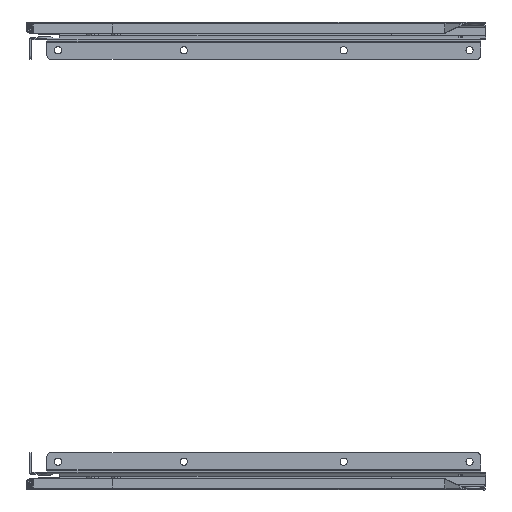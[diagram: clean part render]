
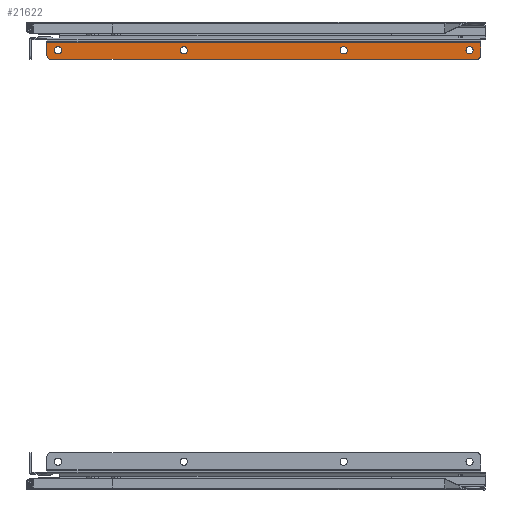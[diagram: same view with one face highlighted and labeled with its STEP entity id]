
A CAD part, front view. The second image highlights one B-rep face of the part: STEP entity #21622.
In plain terms, the highlighted planar face has unit normal (0, -1, 0).
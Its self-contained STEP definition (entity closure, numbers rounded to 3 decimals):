
#253 = CARTESIAN_POINT ( 'NONE',  ( 330.8, -0.7, -13. ) ) ;
#295 = VECTOR ( 'NONE', #21865, 1000. ) ;
#667 = DIRECTION ( 'NONE',  ( 0., 1., 0. ) ) ;
#857 = EDGE_CURVE ( 'NONE', #15653, #21647, #22675, .T. ) ;
#941 = VERTEX_POINT ( 'NONE', #13379 ) ;
#1308 = DIRECTION ( 'NONE',  ( 0., 0., 1. ) ) ;
#1405 = VERTEX_POINT ( 'NONE', #13095 ) ;
#2054 = EDGE_LOOP ( 'NONE', ( #2337, #7007 ) ) ;
#2213 = DIRECTION ( 'NONE',  ( 0., 0., 1. ) ) ;
#2320 = FACE_BOUND ( 'NONE', #9099, .T. ) ;
#2337 = ORIENTED_EDGE ( 'NONE', *, *, #5173, .T. ) ;
#2517 = VECTOR ( 'NONE', #23081, 1000. ) ;
#2651 = AXIS2_PLACEMENT_3D ( 'NONE', #18080, #667, #13897 ) ;
#2732 = EDGE_CURVE ( 'NONE', #7277, #13407, #20241, .T. ) ;
#3313 = CIRCLE ( 'NONE', #7383, 2.75 ) ;
#3319 = CARTESIAN_POINT ( 'NONE',  ( 322.4, -0.7, -6.35 ) ) ;
#3486 = DIRECTION ( 'NONE',  ( 0., 1., 0. ) ) ;
#3769 = CARTESIAN_POINT ( 'NONE',  ( 330.8, -0.7, -3.324 ) ) ;
#3899 = DIRECTION ( 'NONE',  ( 0., 1., 0. ) ) ;
#4271 = LINE ( 'NONE', #12007, #2517 ) ;
#4347 = CARTESIAN_POINT ( 'NONE',  ( 330.8, -0.7, -3.324 ) ) ;
#4365 = ORIENTED_EDGE ( 'NONE', *, *, #13634, .T. ) ;
#4647 = AXIS2_PLACEMENT_3D ( 'NONE', #5024, #12766, #18237 ) ;
#4714 = ORIENTED_EDGE ( 'NONE', *, *, #2732, .T. ) ;
#5024 = CARTESIAN_POINT ( 'NONE',  ( 327.8, -0.7, -13. ) ) ;
#5173 = EDGE_CURVE ( 'NONE', #11166, #8575, #3313, .T. ) ;
#5234 = DIRECTION ( 'NONE',  ( 0., 1., 0. ) ) ;
#5903 = CIRCLE ( 'NONE', #2651, 2.75 ) ;
#6156 = CARTESIAN_POINT ( 'NONE',  ( 3., -0.7, -13. ) ) ;
#6299 = AXIS2_PLACEMENT_3D ( 'NONE', #10331, #17828, #7946 ) ;
#6557 = CARTESIAN_POINT ( 'NONE',  ( 0., -0.7, -13. ) ) ;
#6943 = ORIENTED_EDGE ( 'NONE', *, *, #14647, .F. ) ;
#7007 = ORIENTED_EDGE ( 'NONE', *, *, #22946, .T. ) ;
#7277 = VERTEX_POINT ( 'NONE', #10904 ) ;
#7383 = AXIS2_PLACEMENT_3D ( 'NONE', #9347, #3899, #11635 ) ;
#7508 = AXIS2_PLACEMENT_3D ( 'NONE', #6156, #19640, #2213 ) ;
#7532 = EDGE_CURVE ( 'NONE', #941, #16978, #16716, .T. ) ;
#7620 = CARTESIAN_POINT ( 'NONE',  ( 104.4, -0.7, -11.85 ) ) ;
#7866 = ORIENTED_EDGE ( 'NONE', *, *, #13742, .F. ) ;
#7946 = DIRECTION ( 'NONE',  ( 0., 0., 1. ) ) ;
#8065 = DIRECTION ( 'NONE',  ( 0., 1., 0. ) ) ;
#8172 = FACE_OUTER_BOUND ( 'NONE', #20446, .T. ) ;
#8575 = VERTEX_POINT ( 'NONE', #7620 ) ;
#8670 = FACE_BOUND ( 'NONE', #14182, .T. ) ;
#8732 = CARTESIAN_POINT ( 'NONE',  ( 8.4, -0.7, -11.85 ) ) ;
#9099 = EDGE_LOOP ( 'NONE', ( #14351, #14025 ) ) ;
#9347 = CARTESIAN_POINT ( 'NONE',  ( 104.4, -0.7, -9.1 ) ) ;
#9567 = VERTEX_POINT ( 'NONE', #22963 ) ;
#9647 = VERTEX_POINT ( 'NONE', #6557 ) ;
#9801 = CIRCLE ( 'NONE', #19146, 2.75 ) ;
#10037 = EDGE_CURVE ( 'NONE', #16978, #941, #13596, .T. ) ;
#10061 = FACE_BOUND ( 'NONE', #22756, .T. ) ;
#10071 = EDGE_CURVE ( 'NONE', #9647, #9567, #19287, .T. ) ;
#10128 = EDGE_CURVE ( 'NONE', #21647, #15653, #5903, .T. ) ;
#10167 = LINE ( 'NONE', #14097, #295 ) ;
#10331 = CARTESIAN_POINT ( 'NONE',  ( 226.4, -0.7, -9.1 ) ) ;
#10633 = AXIS2_PLACEMENT_3D ( 'NONE', #16789, #5234, #1308 ) ;
#10690 = VERTEX_POINT ( 'NONE', #22989 ) ;
#10842 = DIRECTION ( 'NONE',  ( 0., 1., 0. ) ) ;
#10882 = AXIS2_PLACEMENT_3D ( 'NONE', #17054, #3486, #17313 ) ;
#10904 = CARTESIAN_POINT ( 'NONE',  ( 8.4, -0.7, -6.35 ) ) ;
#11166 = VERTEX_POINT ( 'NONE', #17830 ) ;
#11295 = AXIS2_PLACEMENT_3D ( 'NONE', #20760, #10842, #20394 ) ;
#11570 = CARTESIAN_POINT ( 'NONE',  ( 226.4, -0.7, -11.85 ) ) ;
#11572 = VECTOR ( 'NONE', #15992, 1000. ) ;
#11635 = DIRECTION ( 'NONE',  ( 0., 0., 1. ) ) ;
#11797 = CARTESIAN_POINT ( 'NONE',  ( 226.4, -0.7, -9.1 ) ) ;
#11807 = LINE ( 'NONE', #23645, #11572 ) ;
#12007 = CARTESIAN_POINT ( 'NONE',  ( 330.8, -0.7, -16. ) ) ;
#12085 = DIRECTION ( 'NONE',  ( 0., 1., 0. ) ) ;
#12267 = AXIS2_PLACEMENT_3D ( 'NONE', #11797, #17759, #21596 ) ;
#12766 = DIRECTION ( 'NONE',  ( 0., -1., 0. ) ) ;
#13095 = CARTESIAN_POINT ( 'NONE',  ( 330.8, -0.7, -3.324 ) ) ;
#13379 = CARTESIAN_POINT ( 'NONE',  ( 226.4, -0.7, -6.35 ) ) ;
#13407 = VERTEX_POINT ( 'NONE', #8732 ) ;
#13596 = CIRCLE ( 'NONE', #6299, 2.75 ) ;
#13634 = EDGE_CURVE ( 'NONE', #1405, #10690, #15818, .T. ) ;
#13742 = EDGE_CURVE ( 'NONE', #22842, #9567, #4271, .T. ) ;
#13770 = ORIENTED_EDGE ( 'NONE', *, *, #22673, .T. ) ;
#13897 = DIRECTION ( 'NONE',  ( 0., 0., 1. ) ) ;
#14025 = ORIENTED_EDGE ( 'NONE', *, *, #10037, .T. ) ;
#14097 = CARTESIAN_POINT ( 'NONE',  ( 330.8, -0.7, -3.324 ) ) ;
#14182 = EDGE_LOOP ( 'NONE', ( #4714, #13770 ) ) ;
#14351 = ORIENTED_EDGE ( 'NONE', *, *, #7532, .T. ) ;
#14647 = EDGE_CURVE ( 'NONE', #1405, #21825, #10167, .T. ) ;
#14941 = ORIENTED_EDGE ( 'NONE', *, *, #19117, .T. ) ;
#15653 = VERTEX_POINT ( 'NONE', #22126 ) ;
#15695 = DIRECTION ( 'NONE',  ( -1., 0., 0. ) ) ;
#15818 = LINE ( 'NONE', #3769, #23623 ) ;
#15904 = PLANE ( 'NONE',  #18659 ) ;
#15992 = DIRECTION ( 'NONE',  ( 0., 0., -1. ) ) ;
#16404 = FACE_BOUND ( 'NONE', #2054, .T. ) ;
#16533 = CARTESIAN_POINT ( 'NONE',  ( 327.8, -0.7, -16. ) ) ;
#16624 = ORIENTED_EDGE ( 'NONE', *, *, #22444, .T. ) ;
#16716 = CIRCLE ( 'NONE', #12267, 2.75 ) ;
#16764 = ORIENTED_EDGE ( 'NONE', *, *, #10128, .T. ) ;
#16789 = CARTESIAN_POINT ( 'NONE',  ( 104.4, -0.7, -9.1 ) ) ;
#16978 = VERTEX_POINT ( 'NONE', #11570 ) ;
#17054 = CARTESIAN_POINT ( 'NONE',  ( 322.4, -0.7, -9.1 ) ) ;
#17313 = DIRECTION ( 'NONE',  ( 0., 0., 1. ) ) ;
#17759 = DIRECTION ( 'NONE',  ( 0., 1., 0. ) ) ;
#17828 = DIRECTION ( 'NONE',  ( 0., 1., 0. ) ) ;
#17830 = CARTESIAN_POINT ( 'NONE',  ( 104.4, -0.7, -6.35 ) ) ;
#17839 = ORIENTED_EDGE ( 'NONE', *, *, #857, .T. ) ;
#17962 = ORIENTED_EDGE ( 'NONE', *, *, #10071, .T. ) ;
#18080 = CARTESIAN_POINT ( 'NONE',  ( 322.4, -0.7, -9.1 ) ) ;
#18237 = DIRECTION ( 'NONE',  ( 0., 0., 1. ) ) ;
#18659 = AXIS2_PLACEMENT_3D ( 'NONE', #4347, #12085, #19861 ) ;
#19117 = EDGE_CURVE ( 'NONE', #10690, #9647, #11807, .T. ) ;
#19146 = AXIS2_PLACEMENT_3D ( 'NONE', #21407, #8065, #23202 ) ;
#19287 = CIRCLE ( 'NONE', #7508, 3. ) ;
#19640 = DIRECTION ( 'NONE',  ( 0., -1., 0. ) ) ;
#19861 = DIRECTION ( 'NONE',  ( 0., 0., 1. ) ) ;
#20241 = CIRCLE ( 'NONE', #11295, 2.75 ) ;
#20394 = DIRECTION ( 'NONE',  ( 0., 0., 1. ) ) ;
#20446 = EDGE_LOOP ( 'NONE', ( #14941, #17962, #7866, #16624, #6943, #4365 ) ) ;
#20478 = CIRCLE ( 'NONE', #4647, 3. ) ;
#20760 = CARTESIAN_POINT ( 'NONE',  ( 8.4, -0.7, -9.1 ) ) ;
#21407 = CARTESIAN_POINT ( 'NONE',  ( 8.4, -0.7, -9.1 ) ) ;
#21596 = DIRECTION ( 'NONE',  ( 0., 0., 1. ) ) ;
#21602 = CIRCLE ( 'NONE', #10633, 2.75 ) ;
#21622 = ADVANCED_FACE ( 'NONE', ( #8670, #16404, #2320, #10061, #8172 ), #15904, .F. ) ;
#21647 = VERTEX_POINT ( 'NONE', #3319 ) ;
#21825 = VERTEX_POINT ( 'NONE', #253 ) ;
#21865 = DIRECTION ( 'NONE',  ( 0., 0., -1. ) ) ;
#22126 = CARTESIAN_POINT ( 'NONE',  ( 322.4, -0.7, -11.85 ) ) ;
#22444 = EDGE_CURVE ( 'NONE', #22842, #21825, #20478, .T. ) ;
#22673 = EDGE_CURVE ( 'NONE', #13407, #7277, #9801, .T. ) ;
#22675 = CIRCLE ( 'NONE', #10882, 2.75 ) ;
#22756 = EDGE_LOOP ( 'NONE', ( #16764, #17839 ) ) ;
#22842 = VERTEX_POINT ( 'NONE', #16533 ) ;
#22946 = EDGE_CURVE ( 'NONE', #8575, #11166, #21602, .T. ) ;
#22963 = CARTESIAN_POINT ( 'NONE',  ( 3., -0.7, -16. ) ) ;
#22989 = CARTESIAN_POINT ( 'NONE',  ( 0., -0.7, -3.324 ) ) ;
#23081 = DIRECTION ( 'NONE',  ( -1., 0., 0. ) ) ;
#23202 = DIRECTION ( 'NONE',  ( 0., 0., 1. ) ) ;
#23623 = VECTOR ( 'NONE', #15695, 1000. ) ;
#23645 = CARTESIAN_POINT ( 'NONE',  ( 0., -0.7, -3.324 ) ) ;
